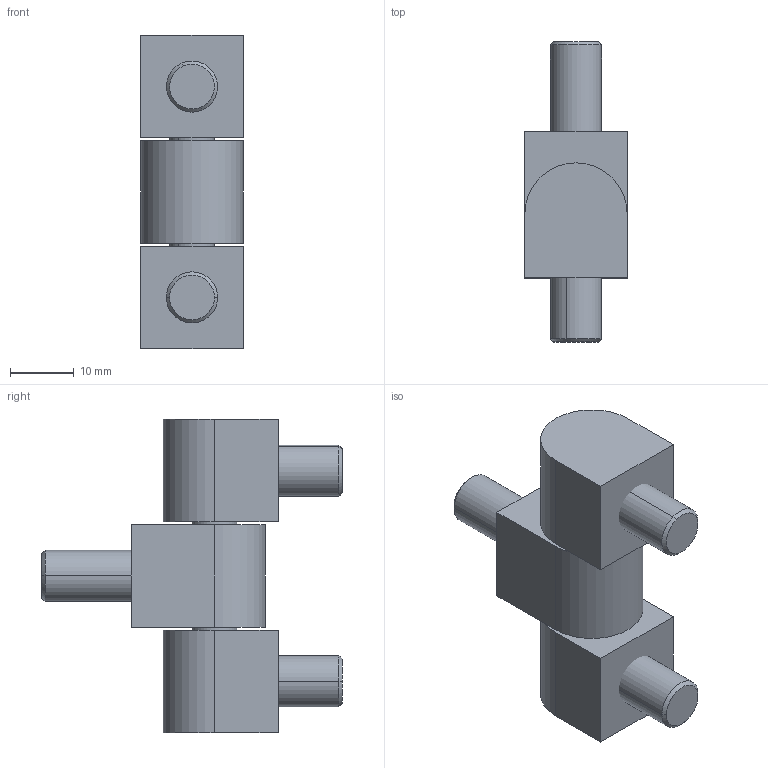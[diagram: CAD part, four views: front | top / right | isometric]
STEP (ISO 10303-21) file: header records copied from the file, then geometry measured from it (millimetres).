
FILE_DESCRIPTION (( 'STEP AP214' ), '1' );
FILE_NAME ('3.ST17.001.STEP', '2016-09-09T09:40:22', ( '' ), ( '' ), 'SwSTEP 2.0', 'SolidWorks 2015', '' );
FILE_SCHEMA (( 'AUTOMOTIVE_DESIGN' ));
Length unit declared in the file: millimetre
Products named in the file (6): 3.ST17.001.04_C; 3.ST17.001.05_B; 3.ST17.001.03_A; 3.ST17.001.02_SN; 3A.ST17.001.01_SN; 3.ST17.001
Assembly tree (7 placements, depth 2):
  3.ST17.001
    3A.ST17.001.01_SN
    3.ST17.001.02_SN  x2
    3.ST17.001.03_A
    3.ST17.001.05_B
    3.ST17.001.04_C  x2
Bounding box: 16 x 47 x 49 mm (x, y, z)
Volume: 15089.3 mm3; surface area: 8382.9 mm2
Topology: 7 solids, 7 shells, 66 faces, 136 edges, 82 vertices
Faces by surface type: cylinder 23, plane 23, cone 20
Entity records: 1606 total; most frequent: CARTESIAN_POINT 357, DIRECTION 240, ORIENTED_EDGE 184, AXIS2_PLACEMENT_3D 96, EDGE_CURVE 92, VERTEX_POINT 57, EDGE_LOOP 53, LINE 48
